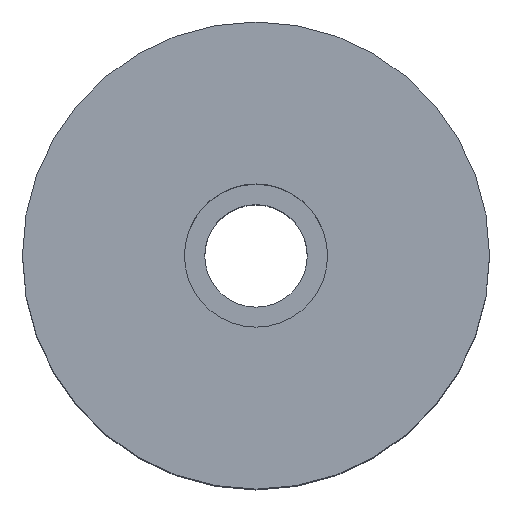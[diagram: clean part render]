
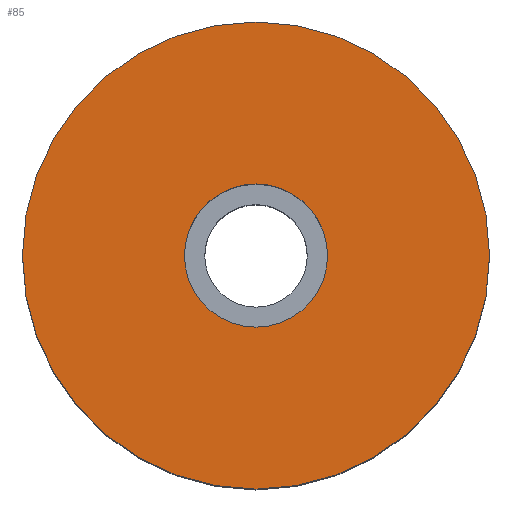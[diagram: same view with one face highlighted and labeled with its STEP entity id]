
A CAD part, top view. The second image highlights one B-rep face of the part: STEP entity #85.
In plain terms, the highlighted planar face has unit normal (0, 0, 1).
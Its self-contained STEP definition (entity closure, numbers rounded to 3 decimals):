
#85=ADVANCED_FACE('',(#132,#133),#134,.T.);
#132=FACE_BOUND('',#183,.T.);
#133=FACE_OUTER_BOUND('',#184,.T.);
#134=PLANE('',#185);
#183=EDGE_LOOP('',(#345,#346));
#184=EDGE_LOOP('',(#347,#348));
#185=AXIS2_PLACEMENT_3D('',#349,#350,#351);
#345=ORIENTED_EDGE('',*,*,#417,.F.);
#346=ORIENTED_EDGE('',*,*,#410,.F.);
#347=ORIENTED_EDGE('',*,*,#414,.T.);
#348=ORIENTED_EDGE('',*,*,#415,.T.);
#349=CARTESIAN_POINT('',(40.5,0.0,131.267));
#350=DIRECTION('',(-0.0,0.,1.0));
#351=DIRECTION('',(1.0,0.0,0.0));
#410=EDGE_CURVE('',#492,#488,#494,.T.);
#414=EDGE_CURVE('',#496,#500,#502,.T.);
#415=EDGE_CURVE('',#500,#496,#503,.T.);
#417=EDGE_CURVE('',#488,#492,#505,.T.);
#488=VERTEX_POINT('',#586);
#492=VERTEX_POINT('',#591);
#494=CIRCLE('',#594,19.0);
#496=VERTEX_POINT('',#596);
#500=VERTEX_POINT('',#601);
#502=CIRCLE('',#604,62.0);
#503=CIRCLE('',#605,62.0);
#505=CIRCLE('',#607,19.0);
#586=CARTESIAN_POINT('',(19.0,0.0,131.267));
#591=CARTESIAN_POINT('',(-19.0,0.,131.267));
#594=AXIS2_PLACEMENT_3D('',#717,#718,#719);
#596=CARTESIAN_POINT('',(62.0,0.0,131.267));
#601=CARTESIAN_POINT('',(-62.0,0.,131.267));
#604=AXIS2_PLACEMENT_3D('',#725,#726,#727);
#605=AXIS2_PLACEMENT_3D('',#728,#729,#730);
#607=AXIS2_PLACEMENT_3D('',#734,#735,#736);
#717=CARTESIAN_POINT('',(0.0,0.0,131.267));
#718=DIRECTION('',(-0.0,0.,1.0));
#719=DIRECTION('',(1.0,0.0,0.0));
#725=CARTESIAN_POINT('',(0.0,0.0,131.267));
#726=DIRECTION('',(-0.0,0.,1.0));
#727=DIRECTION('',(1.0,0.0,0.0));
#728=CARTESIAN_POINT('',(0.0,0.0,131.267));
#729=DIRECTION('',(-0.0,0.,1.0));
#730=DIRECTION('',(1.0,0.0,0.0));
#734=CARTESIAN_POINT('',(0.0,0.0,131.267));
#735=DIRECTION('',(-0.0,0.,1.0));
#736=DIRECTION('',(1.0,0.0,0.0));
